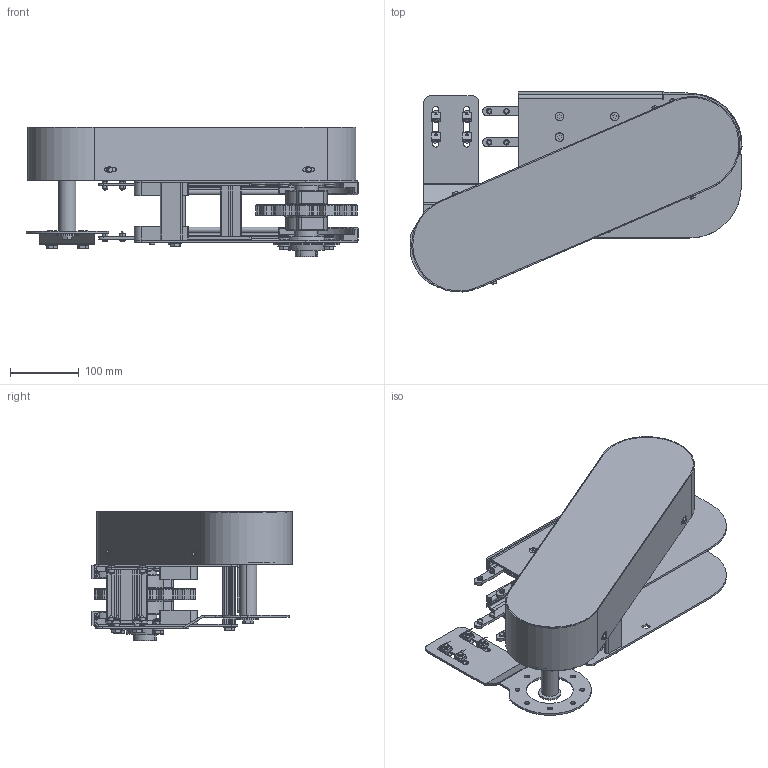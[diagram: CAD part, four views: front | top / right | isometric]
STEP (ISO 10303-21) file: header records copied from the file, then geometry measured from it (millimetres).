
FILE_DESCRIPTION (( 'STEP AP214' ), '1' );
FILE_NAME ('2000.325.349.STEP', '2020-11-20T09:08:39', ( 'Localadmin' ), ( 'Microsoft' ), 'SwSTEP 2.0', 'SolidWorks 2018', '' );
FILE_SCHEMA (( 'AUTOMOTIVE_DESIGN' ));
Length unit declared in the file: millimetre
Products named in the file (40): 084.302.000 DADI ALUSIC 13x13-1_084.302.009; 2000.001.003-2; 25T10-970; 2000.001.304; RUOTE DI TRAINO NS880_NS880T12R25; VITI TE UNI 5739 INOX_M4x10 UNI 5739 INOX; 2000.325.001_Default<Lavorato>; SBPF205; 2000.325.304; PROFILO POLIZENE_209<A macchina>; GRANI A PUNTA CONICA UNI 5927 INOX_M8x14 UNI 5927 INOX; 2000.325.305; CHIAVETTE_A 8x7x50 UNI 6604-69; RONDELLE FASCIA LARGA UNI 6593 INOX_8.4x32 UNI 6593 INOX; 2000.001.303; CHIAVETTE_A 8x7x30 UNI 6604-69; RONDELLE UNI 6592 INOX_4.3x9 UNI 6592 INOX; CHIAVETTE_A 8x7x70 UNI 6604-69; 2000.325.349; 356.124.002; VITI TE UNI 5739 INOX_M4x20 UNI 5739 INOX; 2000.001.305; 2000.001.306; VITI TE UNI 5739 INOX_M8x20 UNI 5739 INOX; 2000.001.911; 2000.325.104-1; VITI TSEI UNI 5933 INOX_0620UNI5933A2; 2000.325.105-1; VITI TSEI UNI 5933 INOX_0410UNI5933A2; 2000.325.003; DIN EN ISO 10511 - M8 - N_DIN EN ISO 10511 - M8 - N; 2000.001.307; RONDELLE UNI 6592 INOX_8.4x18 UNI 6592 INOX; 2000.001.006-1; 2000.001.002; VITI TE UNI 5739 INOX_M8x16 UNI 5739 INOX; 2000.001.001; Circlip DIN 471 - 20 x 1.2_Circlip DIN 471 - 20 x 1.2; 2000.001.004-2; 61804
Assembly tree (118 placements, depth 2):
  2000.325.349
    2000.001.303
    2000.325.305
    2000.325.304
    2000.325.001_Default<Lavorato>  x2
    2000.001.304  x2
    2000.001.003-2
    2000.001.004-2
    2000.001.001  x2
    2000.001.002  x2
    2000.001.006-1  x2
    2000.001.307
    2000.325.003  x2
    2000.325.105-1
    2000.325.104-1
    2000.001.911
    2000.001.306
    2000.001.305
    356.124.002
    CHIAVETTE_A 8x7x70 UNI 6604-69
    CHIAVETTE_A 8x7x30 UNI 6604-69  x2
    CHIAVETTE_A 8x7x50 UNI 6604-69
    PROFILO POLIZENE_209<A macchina>  x2
    SBPF205  x2
    RUOTE DI TRAINO NS880_NS880T12R25
    25T10-970
    61804  x2
    VITI TE UNI 5739 INOX_M8x16 UNI 5739 INOX  x14
    RONDELLE UNI 6592 INOX_8.4x18 UNI 6592 INOX  x13
    DIN EN ISO 10511 - M8 - N_DIN EN ISO 10511 - M8 - N  x7
    VITI TSEI UNI 5933 INOX_0410UNI5933A2  x6
    VITI TSEI UNI 5933 INOX_0620UNI5933A2  x8
    VITI TE UNI 5739 INOX_M8x20 UNI 5739 INOX  x2
    VITI TE UNI 5739 INOX_M4x20 UNI 5739 INOX  x4
    RONDELLE UNI 6592 INOX_4.3x9 UNI 6592 INOX  x8
    RONDELLE FASCIA LARGA UNI 6593 INOX_8.4x32 UNI 6593 INOX  x3
    GRANI A PUNTA CONICA UNI 5927 INOX_M8x14 UNI 5927 INOX  x8
    VITI TE UNI 5739 INOX_M4x10 UNI 5739 INOX  x4
    084.302.000 DADI ALUSIC 13x13-1_084.302.009  x4
    Circlip DIN 471 - 20 x 1.2_Circlip DIN 471 - 20 x 1.2
Bounding box: 481.64 x 290.19 x 188.5 mm (x, y, z)
Volume: 2266160 mm3; surface area: 1353937.2 mm2
Topology: 121 solids, 127 shells, 3678 faces, 9190 edges, 5850 vertices
Faces by surface type: plane 1741, cylinder 1259, cone 448, torus 214, bspline 16
Entity records: 68282 total; most frequent: CARTESIAN_POINT 12488, DIRECTION 11637, ORIENTED_EDGE 10906, EDGE_CURVE 5455, AXIS2_PLACEMENT_3D 4125, VERTEX_POINT 3504, LINE 3387, VECTOR 3387
